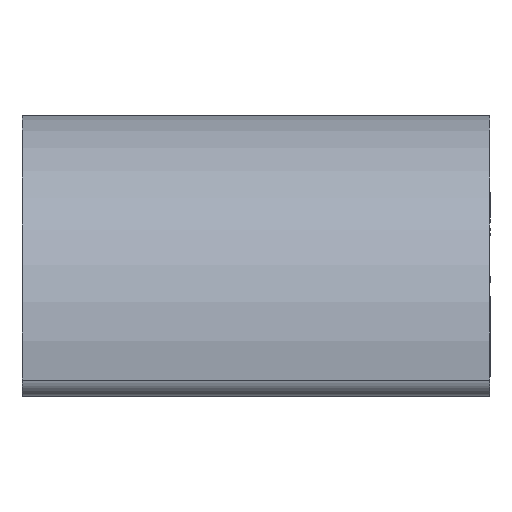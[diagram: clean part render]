
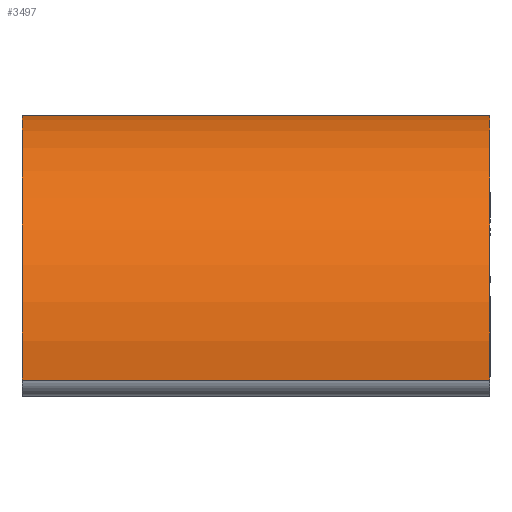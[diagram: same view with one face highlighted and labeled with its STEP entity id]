
A CAD part, left-side view. The second image highlights one B-rep face of the part: STEP entity #3497.
In plain terms, the highlighted cylindrical face has radius 25 mm (diameter 50 mm), a partial arc.
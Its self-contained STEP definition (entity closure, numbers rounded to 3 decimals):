
#46 = VECTOR ( 'NONE', #2224, 1000. ) ;
#120 = VERTEX_POINT ( 'NONE', #382 ) ;
#317 = EDGE_CURVE ( 'NONE', #1910, #2145, #3391, .T. ) ;
#336 = DIRECTION ( 'NONE',  ( 0., 0., 1. ) ) ;
#382 = CARTESIAN_POINT ( 'NONE',  ( 657.802, 130.934, -1.1 ) ) ;
#497 = FACE_OUTER_BOUND ( 'NONE', #3637, .T. ) ;
#536 = ORIENTED_EDGE ( 'NONE', *, *, #1435, .T. ) ;
#569 = VECTOR ( 'NONE', #1345, 1000. ) ;
#634 = CARTESIAN_POINT ( 'NONE',  ( 682.589, 180.934, 2.16 ) ) ;
#857 = LINE ( 'NONE', #2002, #46 ) ;
#957 = DIRECTION ( 'NONE',  ( 0., -1., 0. ) ) ;
#988 = ORIENTED_EDGE ( 'NONE', *, *, #2335, .F. ) ;
#1134 = CYLINDRICAL_SURFACE ( 'NONE', #2495, 25. ) ;
#1330 = ORIENTED_EDGE ( 'NONE', *, *, #2514, .T. ) ;
#1345 = DIRECTION ( 'NONE',  ( 0., -1., 0. ) ) ;
#1435 = EDGE_CURVE ( 'NONE', #2145, #2020, #857, .T. ) ;
#1709 = CARTESIAN_POINT ( 'NONE',  ( 685.85, 80.934, 26.947 ) ) ;
#1849 = DIRECTION ( 'NONE',  ( 0., 1., 0. ) ) ;
#1910 = VERTEX_POINT ( 'NONE', #3511 ) ;
#1946 = CARTESIAN_POINT ( 'NONE',  ( 685.85, 130.934, 26.947 ) ) ;
#2002 = CARTESIAN_POINT ( 'NONE',  ( 685.85, 180.934, 26.947 ) ) ;
#2020 = VERTEX_POINT ( 'NONE', #1946 ) ;
#2043 = AXIS2_PLACEMENT_3D ( 'NONE', #3210, #3281, #3880 ) ;
#2145 = VERTEX_POINT ( 'NONE', #1709 ) ;
#2224 = DIRECTION ( 'NONE',  ( 0., 1., 0. ) ) ;
#2325 = CIRCLE ( 'NONE', #3767, 25. ) ;
#2335 = EDGE_CURVE ( 'NONE', #120, #2020, #2325, .T. ) ;
#2428 = LINE ( 'NONE', #3268, #569 ) ;
#2468 = DIRECTION ( 'NONE',  ( 0., 0., -1. ) ) ;
#2495 = AXIS2_PLACEMENT_3D ( 'NONE', #634, #957, #2468 ) ;
#2514 = EDGE_CURVE ( 'NONE', #120, #1910, #2428, .T. ) ;
#3210 = CARTESIAN_POINT ( 'NONE',  ( 682.589, 80.934, 2.16 ) ) ;
#3268 = CARTESIAN_POINT ( 'NONE',  ( 657.802, 180.934, -1.1 ) ) ;
#3272 = ORIENTED_EDGE ( 'NONE', *, *, #317, .T. ) ;
#3281 = DIRECTION ( 'NONE',  ( 0., 1., 0. ) ) ;
#3391 = CIRCLE ( 'NONE', #2043, 25. ) ;
#3497 = ADVANCED_FACE ( 'NONE', ( #497 ), #1134, .T. ) ;
#3511 = CARTESIAN_POINT ( 'NONE',  ( 657.802, 80.934, -1.1 ) ) ;
#3637 = EDGE_LOOP ( 'NONE', ( #536, #988, #1330, #3272 ) ) ;
#3696 = CARTESIAN_POINT ( 'NONE',  ( 682.589, 130.934, 2.16 ) ) ;
#3767 = AXIS2_PLACEMENT_3D ( 'NONE', #3696, #1849, #336 ) ;
#3880 = DIRECTION ( 'NONE',  ( 0., 0., -1. ) ) ;
